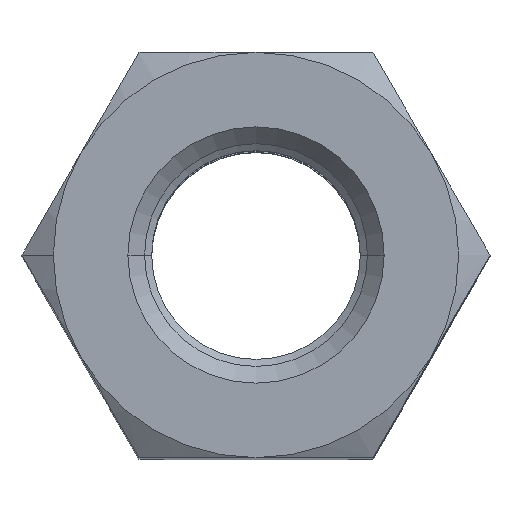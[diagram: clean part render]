
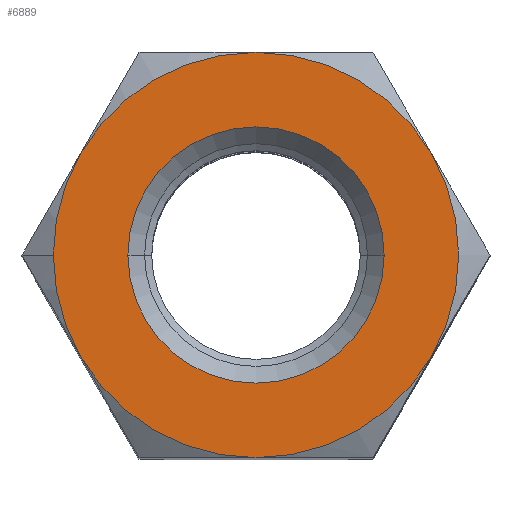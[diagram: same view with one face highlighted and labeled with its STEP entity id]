
A CAD part, top view. The second image highlights one B-rep face of the part: STEP entity #6889.
In plain terms, the highlighted planar face has unit normal (0, 0, 1).
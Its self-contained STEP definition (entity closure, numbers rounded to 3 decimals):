
#248 = AXIS2_PLACEMENT_3D ( 'NONE', #7443, #17021, #8789 ) ;
#302 = AXIS2_PLACEMENT_3D ( 'NONE', #10708, #10020, #10000 ) ;
#308 = VERTEX_POINT ( 'NONE', #9488 ) ;
#489 = DIRECTION ( 'NONE',  ( 1., 0., 0. ) ) ;
#514 = DIRECTION ( 'NONE',  ( 0., 0., -1. ) ) ;
#551 = CARTESIAN_POINT ( 'NONE',  ( 0., 0., 23.5 ) ) ;
#876 = ORIENTED_EDGE ( 'NONE', *, *, #5624, .F. ) ;
#886 = ORIENTED_EDGE ( 'NONE', *, *, #6999, .F. ) ;
#1024 = CARTESIAN_POINT ( 'NONE',  ( 0., 0., 23.5 ) ) ;
#1083 = EDGE_LOOP ( 'NONE', ( #10920, #1142 ) ) ;
#1142 = ORIENTED_EDGE ( 'NONE', *, *, #5757, .T. ) ;
#1153 = AXIS2_PLACEMENT_3D ( 'NONE', #10629, #10573, #10515 ) ;
#2248 = CIRCLE ( 'NONE', #6997, 8.5 ) ;
#2345 = VERTEX_POINT ( 'NONE', #8543 ) ;
#2906 = AXIS2_PLACEMENT_3D ( 'NONE', #6685, #16197, #8008 ) ;
#3064 = EDGE_CURVE ( 'NONE', #17480, #308, #5703, .T. ) ;
#3534 = DIRECTION ( 'NONE',  ( 1., 0., 0. ) ) ;
#4007 = EDGE_CURVE ( 'NONE', #17635, #16015, #2248, .T. ) ;
#4213 = DIRECTION ( 'NONE',  ( 0., 0., -1. ) ) ;
#4430 = AXIS2_PLACEMENT_3D ( 'NONE', #17304, #17383, #16534 ) ;
#4478 = ORIENTED_EDGE ( 'NONE', *, *, #6208, .F. ) ;
#4999 = EDGE_CURVE ( 'NONE', #16015, #15520, #9316, .T. ) ;
#5448 = CARTESIAN_POINT ( 'NONE',  ( -7.361, -4.25, 23.5 ) ) ;
#5624 = EDGE_CURVE ( 'NONE', #17631, #14694, #11603, .T. ) ;
#5683 = AXIS2_PLACEMENT_3D ( 'NONE', #5855, #5829, #5777 ) ;
#5703 = CIRCLE ( 'NONE', #14755, 8.5 ) ;
#5757 = EDGE_CURVE ( 'NONE', #2345, #9166, #9513, .T. ) ;
#5777 = DIRECTION ( 'NONE',  ( 1., 0., 0. ) ) ;
#5829 = DIRECTION ( 'NONE',  ( 0., 0., -1. ) ) ;
#5855 = CARTESIAN_POINT ( 'NONE',  ( 0., 0., 23.5 ) ) ;
#5877 = DIRECTION ( 'NONE',  ( 1., 0., 0. ) ) ;
#5937 = DIRECTION ( 'NONE',  ( 0., 0., -1. ) ) ;
#5994 = CARTESIAN_POINT ( 'NONE',  ( 0., 0., 23.5 ) ) ;
#6163 = AXIS2_PLACEMENT_3D ( 'NONE', #9305, #9265, #9211 ) ;
#6208 = EDGE_CURVE ( 'NONE', #308, #17635, #9241, .T. ) ;
#6514 = CIRCLE ( 'NONE', #16655, 8.5 ) ;
#6685 = CARTESIAN_POINT ( 'NONE',  ( 0., 0., 23.5 ) ) ;
#6889 = ADVANCED_FACE ( 'NONE', ( #12161, #8544 ), #11102, .T. ) ;
#6997 = AXIS2_PLACEMENT_3D ( 'NONE', #551, #514, #489 ) ;
#6999 = EDGE_CURVE ( 'NONE', #14694, #17480, #6514, .T. ) ;
#7443 = CARTESIAN_POINT ( 'NONE',  ( 0., 0., 23.5 ) ) ;
#8008 = DIRECTION ( 'NONE',  ( 1., 0., 0. ) ) ;
#8308 = CARTESIAN_POINT ( 'NONE',  ( 7.361, -4.25, 23.5 ) ) ;
#8543 = CARTESIAN_POINT ( 'NONE',  ( -5.375, 0., 23.5 ) ) ;
#8544 = FACE_OUTER_BOUND ( 'NONE', #14406, .T. ) ;
#8789 = DIRECTION ( 'NONE',  ( 1., 0., 0. ) ) ;
#9166 = VERTEX_POINT ( 'NONE', #10831 ) ;
#9211 = DIRECTION ( 'NONE',  ( -1., 0., 0. ) ) ;
#9241 = CIRCLE ( 'NONE', #6163, 8.5 ) ;
#9265 = DIRECTION ( 'NONE',  ( 0., 0., -1. ) ) ;
#9305 = CARTESIAN_POINT ( 'NONE',  ( 0., 0., 23.5 ) ) ;
#9316 = CIRCLE ( 'NONE', #302, 8.5 ) ;
#9488 = CARTESIAN_POINT ( 'NONE',  ( -7.361, 4.25, 23.5 ) ) ;
#9513 = CIRCLE ( 'NONE', #4430, 5.375 ) ;
#10000 = DIRECTION ( 'NONE',  ( 1., 0., 0. ) ) ;
#10020 = DIRECTION ( 'NONE',  ( 0., 0., -1. ) ) ;
#10193 = ORIENTED_EDGE ( 'NONE', *, *, #3064, .F. ) ;
#10515 = DIRECTION ( 'NONE',  ( 1., 0., 0. ) ) ;
#10573 = DIRECTION ( 'NONE',  ( 0., 0., 1. ) ) ;
#10629 = CARTESIAN_POINT ( 'NONE',  ( -9.815, 0., 23.5 ) ) ;
#10708 = CARTESIAN_POINT ( 'NONE',  ( 0., 0., 23.5 ) ) ;
#10730 = CARTESIAN_POINT ( 'NONE',  ( 0., 8.5, 23.5 ) ) ;
#10831 = CARTESIAN_POINT ( 'NONE',  ( 5.375, 0., 23.5 ) ) ;
#10920 = ORIENTED_EDGE ( 'NONE', *, *, #17307, .T. ) ;
#11102 = PLANE ( 'NONE',  #1153 ) ;
#11603 = CIRCLE ( 'NONE', #5683, 8.5 ) ;
#11688 = CIRCLE ( 'NONE', #2906, 8.5 ) ;
#12161 = FACE_BOUND ( 'NONE', #1083, .T. ) ;
#13611 = ORIENTED_EDGE ( 'NONE', *, *, #17626, .F. ) ;
#14092 = CARTESIAN_POINT ( 'NONE',  ( -8.5, 0., 23.5 ) ) ;
#14406 = EDGE_LOOP ( 'NONE', ( #13611, #17153, #14935, #4478, #10193, #886, #876 ) ) ;
#14694 = VERTEX_POINT ( 'NONE', #5448 ) ;
#14755 = AXIS2_PLACEMENT_3D ( 'NONE', #1024, #4213, #3534 ) ;
#14935 = ORIENTED_EDGE ( 'NONE', *, *, #4007, .F. ) ;
#15349 = CARTESIAN_POINT ( 'NONE',  ( 7.361, 4.25, 23.5 ) ) ;
#15520 = VERTEX_POINT ( 'NONE', #8308 ) ;
#15864 = CIRCLE ( 'NONE', #248, 5.375 ) ;
#16015 = VERTEX_POINT ( 'NONE', #15349 ) ;
#16197 = DIRECTION ( 'NONE',  ( 0., 0., -1. ) ) ;
#16534 = DIRECTION ( 'NONE',  ( 1., 0., 0. ) ) ;
#16655 = AXIS2_PLACEMENT_3D ( 'NONE', #5994, #5937, #5877 ) ;
#17021 = DIRECTION ( 'NONE',  ( 0., 0., -1. ) ) ;
#17153 = ORIENTED_EDGE ( 'NONE', *, *, #4999, .F. ) ;
#17304 = CARTESIAN_POINT ( 'NONE',  ( 0., 0., 23.5 ) ) ;
#17307 = EDGE_CURVE ( 'NONE', #9166, #2345, #15864, .T. ) ;
#17383 = DIRECTION ( 'NONE',  ( 0., 0., -1. ) ) ;
#17480 = VERTEX_POINT ( 'NONE', #14092 ) ;
#17573 = CARTESIAN_POINT ( 'NONE',  ( 0., -8.5, 23.5 ) ) ;
#17626 = EDGE_CURVE ( 'NONE', #15520, #17631, #11688, .T. ) ;
#17631 = VERTEX_POINT ( 'NONE', #17573 ) ;
#17635 = VERTEX_POINT ( 'NONE', #10730 ) ;
